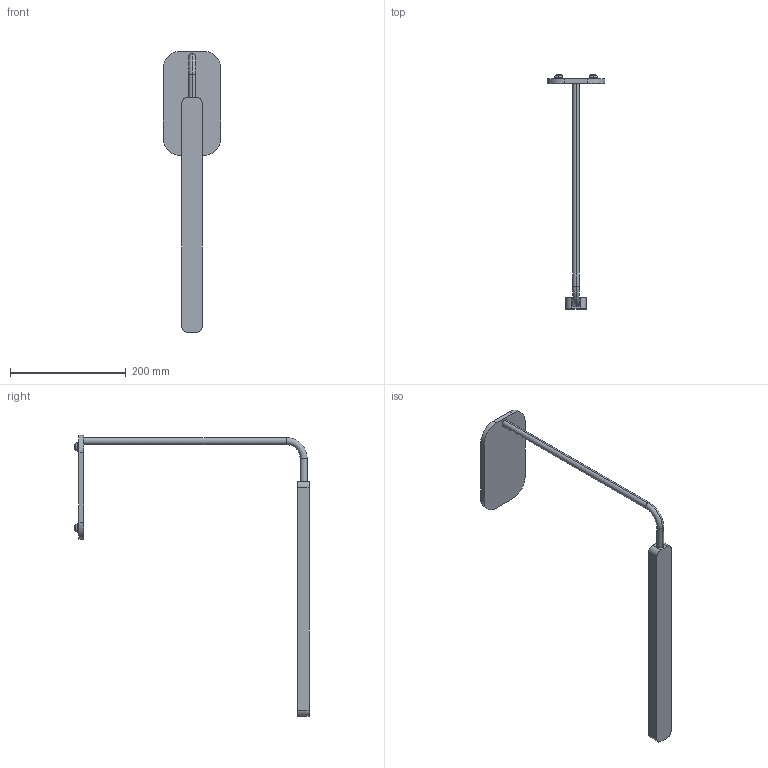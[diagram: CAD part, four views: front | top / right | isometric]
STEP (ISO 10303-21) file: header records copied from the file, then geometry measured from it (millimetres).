
FILE_DESCRIPTION((''),'2;1');
FILE_NAME('HUTAOM-Z_ASM_2_ASM','2026-08-29T',('叶琼'),(''),'PRO/ENGINEER BY PARAMETRIC TECHNOLOGY CORPORATION, 2012300','PRO/ENGINEER BY PARAMETRIC TECHNOLOGY CORPORATION, 2012300','');
FILE_SCHEMA(('CONFIG_CONTROL_DESIGN'));
Length unit declared in the file: millimetre
Products named in the file (10): CHAO_1; HUTAOM_1; GAI-Z_1; TOUJ-D_1; PCB-395_1; 7Z_1; GANYIN_1; TUOYUAN_3; DJ_2; HUTAOM-Z_ASM_2_ASM
Assembly tree (23 placements, depth 2):
  HUTAOM-Z_ASM_2_ASM
    CHAO_1
    HUTAOM_1
    GAI-Z_1
    TOUJ-D_1  x12
    PCB-395_1
    7Z_1
    GANYIN_1
    TUOYUAN_3
    DJ_2  x4
Bounding box: 100 x 404.4 x 486.05 mm (x, y, z)
Volume: 419169.5 mm3; surface area: 187184.7 mm2
Topology: 23 solids, 23 shells, 307 faces, 690 edges, 434 vertices
Faces by surface type: cylinder 132, plane 113, cone 32, revolution 26, torus 4
Entity records: 6753 total; most frequent: DIRECTION 1224, CARTESIAN_POINT 1190, ORIENTED_EDGE 1016, EDGE_CURVE 508, AXIS2_PLACEMENT_3D 473, VERTEX_POINT 327, VECTOR 274, LINE 274
